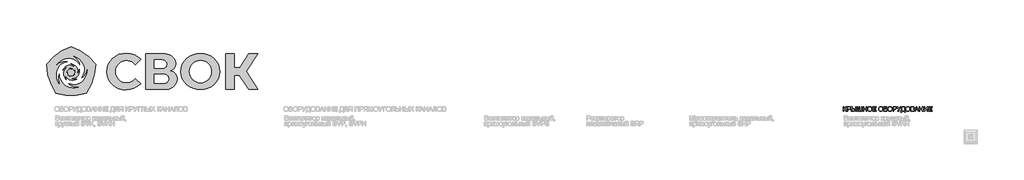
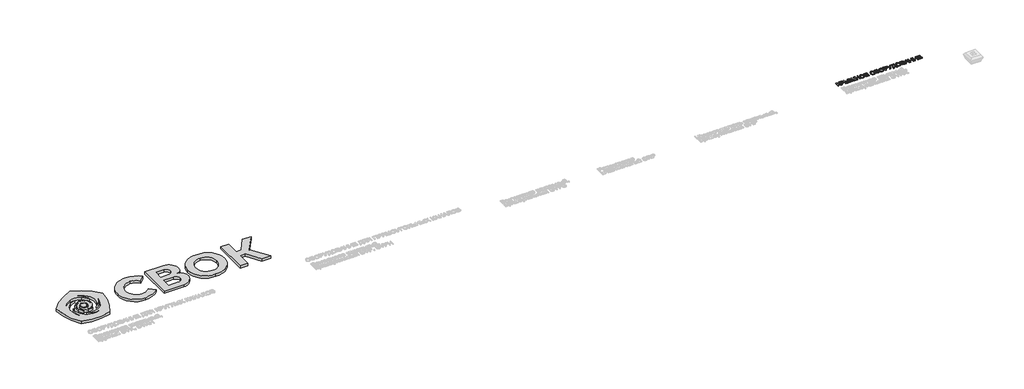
# One storey, part 31 of 31: 2 proxies.
"""IFC4 building model written with IfcOpenShell, lengths in millimetres."""

from ifc_helpers import new_model, si_unit, origin, origin_with_axes, place, context, project, spatial, polyline, outline, extrude, transform, mapped, element, save
from components import generic_models_e413d29a

model = new_model("IFC4")

# Units and contexts
model_context = context("Model", 3, world=origin())
ifc_project = project(units=[si_unit("LENGTHUNIT", "METRE", prefix="MILLI")], contexts=[model_context])

# Site, building, storey
site = spatial("IfcSite", under=ifc_project)
building = spatial("IfcBuilding", under=site)
storey = spatial("IfcBuildingStorey", under=building, Name="Этаж 01", Elevation=0.0)

# Proxies
placement = place(None, origin())
element("IfcBuildingElementProxy", 1, Name="450 мм Arial", ObjectType="450 мм Arial", at=placement, inside=storey, context=model_context, shape_type="SweptSolid", body=[
    extrude(outline(polyline([(77147.7209967, -1162.9519857), (77203.9280146, -1162.9519857), (77203.9280146, -1359.6765481), (77241.9802754, -1355.9577733), (77266.776682, -1344.8014487), (77286.8251324, -1318.550466), (77310.633525, -1269.5477168), (77341.6461862, -1206.6990494), (77356.6036202, -1189.6695305), (77376.7755724, -1175.5766088), (77400.7211891, -1166.1081415), (77426.9996167, -1162.9519857), (77463.8854721, -1163.6106617), (77463.8854721, -1219.8176795), (77451.4804076, -1219.4883415), (77439.0753432, -1219.1590035), (77413.3320899, -1222.534718), (77395.1636105, -1232.6618613), (77379.5200557, -1253.9316068), (77361.7906936, -1290.5155692), (77340.0406635, -1336.0739918), (77321.9956859, -1360.9939001), (77304.1977117, -1374.1125303), (77283.1886921, -1384.2671185), (77304.9593058, -1393.5297496), (77326.578973, -1409.6810338), (77348.0476935, -1432.720971), (77369.3654675, -1462.6495613), (77463.8854721, -1612.6081285), (77398.6765491, -1612.6081285), (77318.7571956, -1485.9227797), (77287.8954809, -1445.2907045), (77262.495288, -1419.7807323), (77236.5187537, -1406.3190417), (77203.9280146, -1401.8318115), (77203.9280146, -1612.6081285), (77147.7209967, -1612.6081285), (77147.7209967, -1162.9519857)])), origin_with_axes(), (0.0, 0.0, 1.0), 50.0),
    extrude(outline(polyline([(77513.0666128, -1612.6081285), (77513.0666128, -1162.9519857), (77679.7116383, -1162.9519857), (77746.8965894, -1167.2333796), (77776.8526245, -1175.2335484), (77801.5118069, -1188.2561216), (77821.3681435, -1206.8911632), (77836.9156414, -1231.728737), (77846.9604502, -1261.0260962), (77850.3087199, -1293.0404938), (77848.0479518, -1320.6431345), (77841.2656474, -1346.0364662), (77829.9618068, -1369.2204888), (77814.1364301, -1390.1952024), (77792.4104142, -1407.581504), (77763.4046564, -1420.0002909), (77727.1191566, -1427.4515631), (77683.5539149, -1429.9353205), (77569.2736306, -1429.9353205), (77569.2736306, -1612.6081285), (77513.0666128, -1612.6081285)]), holes=[polyline([(77569.2736306, -1373.7283026), (77686.8472949, -1373.7283026), (77736.6871115, -1368.568674), (77755.2672634, -1362.1191383), (77769.620911, -1353.0897882), (77780.3312571, -1341.7207662), (77787.9815043, -1328.2522144), (77792.5716526, -1312.684133), (77794.101702, -1295.0165218), (77790.4927065, -1269.7672755), (77779.6657199, -1248.4700851), (77762.965539, -1232.4423027), (77741.7369608, -1223.0012801), (77685.5299429, -1219.1590035), (77569.2736306, -1219.1590035), (77569.2736306, -1373.7283026)])]), origin_with_axes(), (0.0, 0.0, 1.0), 50.0),
    extrude(outline(polyline([(78321.0424944, -1162.9519857), (78377.2495122, -1162.9519857), (78377.2495122, -1612.6081285), (78321.0424944, -1612.6081285), (78321.0424944, -1162.9519857)])), origin_with_axes(), (0.0, 0.0, 1.0), 50.0),
    extrude(outline(polyline([(77927.5933694, -1162.9519857), (77983.8003873, -1162.9519857), (77983.8003873, -1352.6506709), (78091.8232497, -1352.6506709), (78140.3114083, -1355.1069835), (78179.7290496, -1362.4759211), (78210.0761736, -1374.7574838), (78231.3527803, -1391.9516717), (78246.0014599, -1412.2608481), (78256.4648025, -1433.8873764), (78262.742808, -1456.8312567), (78264.8354765, -1481.0924891), (78262.6227369, -1506.5647246), (78255.9845179, -1530.3971314), (78244.9208196, -1552.5897095), (78229.431642, -1573.1424587), (78207.932046, -1590.4086892), (78178.8370925, -1602.741711), (78142.1467815, -1610.1415241), (78097.8611129, -1612.6081285), (77927.5933694, -1612.6081285), (77927.5933694, -1162.9519857)]), holes=[polyline([(77983.8003873, -1556.4011106), (78097.3122163, -1556.4011106), (78147.7969865, -1551.9413253), (78167.0186613, -1546.3665936), (78182.2265294, -1538.5619692), (78193.7773735, -1528.3010323), (78202.0279764, -1515.357363), (78206.9783381, -1499.7309612), (78208.6284587, -1481.4218271), (78204.6352355, -1456.9135912), (78192.6555659, -1436.741639), (78174.3498623, -1422.0037637), (78151.3785372, -1413.7977587), (78117.6076702, -1410.0927063), (78066.9033414, -1408.8576888), (77983.8003873, -1408.8576888), (77983.8003873, -1556.4011106)])]), origin_with_axes(), (0.0, 0.0, 1.0), 50.0),
    extrude(outline(polyline([(78475.6117935, -1162.9519857), (78531.8188113, -1162.9519857), (78531.8188113, -1556.4011106), (78693.4139876, -1556.4011106), (78693.4139876, -1162.9519857), (78749.6210055, -1162.9519857), (78749.6210055, -1556.4011106), (78911.2161818, -1556.4011106), (78911.2161818, -1162.9519857), (78967.4231997, -1162.9519857), (78967.4231997, -1612.6081285), (78475.6117935, -1612.6081285), (78475.6117935, -1162.9519857)])), origin_with_axes(), (0.0, 0.0, 1.0), 50.0),
    extrude(outline(polyline([(79058.7596037, -1612.6081285), (79058.7596037, -1162.9519857), (79114.9666215, -1162.9519857), (79114.9666215, -1345.6247937), (79353.8464474, -1345.6247937), (79353.8464474, -1162.9519857), (79410.0534653, -1162.9519857), (79410.0534653, -1612.6081285), (79353.8464474, -1612.6081285), (79353.8464474, -1401.8318115), (79114.9666215, -1401.8318115), (79114.9666215, -1612.6081285), (79058.7596037, -1612.6081285)])), origin_with_axes(), (0.0, 0.0, 1.0), 50.0),
    extrude(outline(polyline([(79487.3381148, -1393.708141), (79491.0843345, -1340.9660333), (79502.3229936, -1294.2755113), (79521.0540921, -1253.6365749), (79547.2776299, -1219.0492242), (79579.4223905, -1191.432861), (79615.9171571, -1171.7068874), (79656.7619297, -1159.8713032), (79701.9567084, -1155.9261084), (79732.2077755, -1157.7786347), (79760.9356543, -1163.3362133), (79788.140345, -1172.5988444), (79813.8218474, -1185.566528), (79837.2597347, -1201.8481751), (79857.7335801, -1221.052697), (79875.2433835, -1243.1800935), (79889.789145, -1268.2303648), (79901.2199179, -1295.6340305), (79909.3847557, -1324.8216103), (79914.2836584, -1355.7931043), (79915.9166259, -1388.5485124), (79914.1978933, -1421.7361766), (79909.0416953, -1453.1262043), (79900.448032, -1482.7185954), (79888.4169033, -1510.51335), (79873.2330495, -1535.7763187), (79855.1812106, -1557.7733523), (79834.2613867, -1576.5044508), (79810.4735778, -1591.9696141), (79784.7543387, -1604.0727854), (79758.0402245, -1612.7179078), (79730.331235, -1617.9049812), (79701.6273704, -1619.6340057), (79670.8479902, -1617.7231592), (79641.7427449, -1611.9906197), (79614.3116344, -1602.4363873), (79588.5546587, -1589.0604618), (79565.1442162, -1572.3808646), (79544.7527053, -1552.9156168), (79527.3801261, -1530.6647185), (79513.0264784, -1505.6281697), (79501.7878194, -1478.8111373), (79493.7602057, -1451.2187884), (79488.9436375, -1422.851123), (79487.3381148, -1393.708141)]), holes=[polyline([(79543.5451327, -1394.2570376), (79546.3547974, -1431.5202596), (79554.7837917, -1464.5981445), (79568.8321156, -1493.4906923), (79588.499769, -1518.1979032), (79612.4076491, -1537.9856277), (79639.176653, -1552.1197167), (79668.8067808, -1560.6001701), (79701.2980324, -1563.4269879), (79734.3450418, -1560.5727252), (79764.3250912, -1552.0099374), (79791.2381805, -1537.7386242), (79815.0843097, -1517.7587859), (79834.6078778, -1492.5301232), (79848.5532835, -1462.5123372), (79856.9205269, -1427.7054278), (79859.7096081, -1388.1093951), (79854.9342071, -1338.351913), (79840.6080044, -1295.3458597), (79817.1015049, -1260.1753063), (79784.7852142, -1233.9243236), (79745.799829, -1217.5809256), (79702.2860464, -1212.1331263), (79670.9234635, -1214.7575384), (79641.8250794, -1222.6307749), (79614.990894, -1235.7528356), (79590.4209073, -1254.1237207), (79569.9127559, -1278.6285259), (79555.2640763, -1310.1523471), (79546.4748686, -1348.6951844), (79543.5451327, -1394.2570376)])]), origin_with_axes(), (0.0, 0.0, 1.0), 50.0),
    extrude(outline(polyline([(79993.2012755, -1612.6081285), (79993.2012755, -1162.9519857), (80316.3916281, -1162.9519857), (80316.3916281, -1219.1590035), (80049.4082933, -1219.1590035), (80049.4082933, -1352.6506709), (80302.3398737, -1352.6506709), (80302.3398737, -1408.8576888), (80049.4082933, -1408.8576888), (80049.4082933, -1556.4011106), (80323.4175054, -1556.4011106), (80323.4175054, -1612.6081285), (79993.2012755, -1612.6081285)])), origin_with_axes(), (0.0, 0.0, 1.0), 50.0),
    extrude(outline(polyline([(80562.2973312, -1393.708141), (80566.0435509, -1340.9660333), (80577.28221, -1294.2755113), (80596.0133085, -1253.6365749), (80622.2368464, -1219.0492242), (80654.3816069, -1191.432861), (80690.8763735, -1171.7068874), (80731.7211462, -1159.8713032), (80776.9159248, -1155.9261084), (80807.1669919, -1157.7786347), (80835.8948708, -1163.3362133), (80863.0995614, -1172.5988444), (80888.7810638, -1185.566528), (80912.2189512, -1201.8481751), (80932.6927965, -1221.052697), (80950.2025999, -1243.1800935), (80964.7483614, -1268.2303648), (80976.1791343, -1295.6340305), (80984.3439721, -1324.8216103), (80989.2428748, -1355.7931043), (80990.8758424, -1388.5485124), (80989.1571097, -1421.7361766), (80984.0009117, -1453.1262043), (80975.4072484, -1482.7185954), (80963.3761198, -1510.51335), (80948.1922659, -1535.7763187), (80930.1404271, -1557.7733523), (80909.2206032, -1576.5044508), (80885.4327942, -1591.9696141), (80859.7135552, -1604.0727854), (80832.9994409, -1612.7179078), (80805.2904514, -1617.9049812), (80776.5865868, -1619.6340057), (80745.8072067, -1617.7231592), (80716.7019613, -1611.9906197), (80689.2708508, -1602.4363873), (80663.5138751, -1589.0604618), (80640.1034326, -1572.3808646), (80619.7119217, -1552.9156168), (80602.3393425, -1530.6647185), (80587.9856949, -1505.6281697), (80576.7470358, -1478.8111373), (80568.7194221, -1451.2187884), (80563.902854, -1422.851123), (80562.2973312, -1393.708141)]), holes=[polyline([(80618.5043491, -1394.2570376), (80621.3140139, -1431.5202596), (80629.7430082, -1464.5981445), (80643.791332, -1493.4906923), (80663.4589854, -1518.1979032), (80687.3668655, -1537.9856277), (80714.1358694, -1552.1197167), (80743.7659972, -1560.6001701), (80776.2572488, -1563.4269879), (80809.3042583, -1560.5727252), (80839.2843076, -1552.0099374), (80866.1973969, -1537.7386242), (80890.0435262, -1517.7587859), (80909.5670942, -1492.5301232), (80923.5124999, -1462.5123372), (80931.8797434, -1427.7054278), (80934.6688245, -1388.1093951), (80929.8934236, -1338.351913), (80915.5672208, -1295.3458597), (80892.0607214, -1260.1753063), (80859.7444306, -1233.9243236), (80820.7590454, -1217.5809256), (80777.2452628, -1212.1331263), (80745.8826799, -1214.7575384), (80716.7842958, -1222.6307749), (80689.9501104, -1235.7528356), (80665.3801237, -1254.1237207), (80644.8719723, -1278.6285259), (80630.2232927, -1310.1523471), (80621.434085, -1348.6951844), (80618.5043491, -1394.2570376)])]), origin_with_axes(), (0.0, 0.0, 1.0), 50.0),
    extrude(outline(polyline([(81068.1604919, -1162.9519857), (81349.1955812, -1162.9519857), (81349.1955812, -1219.1590035), (81124.3675098, -1219.1590035), (81124.3675098, -1352.6506709), (81229.6458889, -1352.6506709), (81281.9831853, -1355.5049335), (81322.4094242, -1364.0677214), (81353.4495303, -1380.562066), (81377.6284281, -1407.2109988), (81393.1896484, -1441.51704), (81398.3767218, -1480.9827097), (81394.6853918, -1514.1223455), (81383.6114017, -1545.0389498), (81365.2096412, -1572.1132775), (81339.535, -1593.7260834), (81322.3065061, -1601.9869781), (81299.932106, -1607.8876172), (81239.7455874, -1612.6081285), (81068.1604919, -1612.6081285), (81068.1604919, -1162.9519857)]), holes=[polyline([(81124.3675098, -1556.4011106), (81244.7954367, -1556.4011106), (81287.3623726, -1551.7629339), (81304.0968594, -1545.9652129), (81317.7986923, -1537.8484036), (81328.4610099, -1527.4125058), (81336.076951, -1514.6575197), (81340.6465157, -1499.5834452), (81342.1697039, -1482.1902824), (81338.6842101, -1458.0113846), (81328.2277288, -1438.1687703), (81311.5549928, -1423.4583399), (81289.420735, -1414.6759934), (81255.8145371, -1410.3122649), (81204.7259806, -1408.8576888), (81124.3675098, -1408.8576888), (81124.3675098, -1556.4011106)])]), origin_with_axes(), (0.0, 0.0, 1.0), 50.0),
    extrude(outline(polyline([(81454.5837396, -1393.708141), (81458.3299593, -1340.9660333), (81469.5686184, -1294.2755113), (81488.2997169, -1253.6365749), (81514.5232548, -1219.0492242), (81546.6680153, -1191.432861), (81583.1627819, -1171.7068874), (81624.0075546, -1159.8713032), (81669.2023332, -1155.9261084), (81699.4534003, -1157.7786347), (81728.1812792, -1163.3362133), (81755.3859698, -1172.5988444), (81781.0674722, -1185.566528), (81804.5053596, -1201.8481751), (81824.9792049, -1221.052697), (81842.4890083, -1243.1800935), (81857.0347698, -1268.2303648), (81868.4655427, -1295.6340305), (81876.6303805, -1324.8216103), (81881.5292832, -1355.7931043), (81883.1622508, -1388.5485124), (81881.4435181, -1421.7361766), (81876.2873201, -1453.1262043), (81867.6936568, -1482.7185954), (81855.6625282, -1510.51335), (81840.4786743, -1535.7763187), (81822.4268355, -1557.7733523), (81801.5070116, -1576.5044508), (81777.7192026, -1591.9696141), (81751.9999636, -1604.0727854), (81725.2858493, -1612.7179078), (81697.5768598, -1617.9049812), (81668.8729952, -1619.6340057), (81638.0936151, -1617.7231592), (81608.9883697, -1611.9906197), (81581.5572592, -1602.4363873), (81555.8002835, -1589.0604618), (81532.389841, -1572.3808646), (81511.9983301, -1552.9156168), (81494.6257509, -1530.6647185), (81480.2721033, -1505.6281697), (81469.0334442, -1478.8111373), (81461.0058305, -1451.2187884), (81456.1892624, -1422.851123), (81454.5837396, -1393.708141)]), holes=[polyline([(81510.7907575, -1394.2570376), (81513.6004223, -1431.5202596), (81522.0294166, -1464.5981445), (81536.0777404, -1493.4906923), (81555.7453938, -1518.1979032), (81579.6532739, -1537.9856277), (81606.4222779, -1552.1197167), (81636.0524056, -1560.6001701), (81668.5436572, -1563.4269879), (81701.5906667, -1560.5727252), (81731.570716, -1552.0099374), (81758.4838053, -1537.7386242), (81782.3299346, -1517.7587859), (81801.8535026, -1492.5301232), (81815.7989083, -1462.5123372), (81824.1661518, -1427.7054278), (81826.9552329, -1388.1093951), (81822.179832, -1338.351913), (81807.8536292, -1295.3458597), (81784.3471298, -1260.1753063), (81752.030839, -1233.9243236), (81713.0454538, -1217.5809256), (81669.5316712, -1212.1331263), (81638.1690884, -1214.7575384), (81609.0707042, -1222.6307749), (81582.2365188, -1235.7528356), (81557.6665321, -1254.1237207), (81537.1583807, -1278.6285259), (81522.5097012, -1310.1523471), (81513.7204934, -1348.6951844), (81510.7907575, -1394.2570376)])]), origin_with_axes(), (0.0, 0.0, 1.0), 50.0),
    extrude(outline(polyline([(81960.4469003, -1612.6081285), (81960.4469003, -1162.9519857), (82127.0919259, -1162.9519857), (82194.2768769, -1167.2333796), (82224.2329121, -1175.2335484), (82248.8920945, -1188.2561216), (82268.7484311, -1206.8911632), (82284.2959289, -1231.728737), (82294.3407378, -1261.0260962), (82297.6890074, -1293.0404938), (82295.4282393, -1320.6431345), (82288.645935, -1346.0364662), (82277.3420944, -1369.2204888), (82261.5167176, -1390.1952024), (82239.7907017, -1407.581504), (82210.7849439, -1420.0002909), (82174.4994442, -1427.4515631), (82130.9342025, -1429.9353205), (82016.6539182, -1429.9353205), (82016.6539182, -1612.6081285), (81960.4469003, -1612.6081285)]), holes=[polyline([(82016.6539182, -1373.7283026), (82134.2275825, -1373.7283026), (82184.0673991, -1368.568674), (82202.647551, -1362.1191383), (82217.0011986, -1353.0897882), (82227.7115446, -1341.7207662), (82235.3617918, -1328.2522144), (82239.9519401, -1312.684133), (82241.4819896, -1295.0165218), (82237.872994, -1269.7672755), (82227.0460074, -1248.4700851), (82210.3458266, -1232.4423027), (82189.1172483, -1223.0012801), (82132.9102305, -1219.1590035), (82016.6539182, -1219.1590035), (82016.6539182, -1373.7283026)])]), origin_with_axes(), (0.0, 0.0, 1.0), 50.0),
    extrude(outline(polyline([(82343.3572094, -1162.9519857), (82405.6020905, -1162.9519857), (82540.0817719, -1429.2766445), (82661.0585955, -1162.9519857), (82722.7545799, -1162.9519857), (82552.0477191, -1513.2578333), (82526.2770209, -1567.6534921), (82505.6110617, -1599.3248293), (82495.5731141, -1608.210094), (82483.5728609, -1614.5567116), (82453.6854378, -1619.6340057), (82403.0771659, -1612.6081285), (82403.0771659, -1563.4269879), (82447.3182366, -1563.4269879), (82465.0201538, -1560.2982769), (82480.1422568, -1550.912144), (82494.6605734, -1530.4108538), (82510.5511317, -1493.9366709), (82343.3572094, -1162.9519857)])), origin_with_axes(), (0.0, 0.0, 1.0), 50.0),
    extrude(outline(polyline([(82817.6039226, -1162.9519857), (83084.5872573, -1162.9519857), (83084.5872573, -1556.4011106), (83126.7425207, -1556.4011106), (83126.7425207, -1717.996287), (83070.5355029, -1717.996287), (83070.5355029, -1612.6081285), (82782.4745364, -1612.6081285), (82782.4745364, -1717.996287), (82726.2675185, -1717.996287), (82726.2675185, -1556.4011106), (82761.3969047, -1556.4011106), (82774.5704245, -1533.5001128), (82785.987475, -1505.4154722), (82803.5521681, -1433.6952626), (82814.0909839, -1341.2404816), (82817.6039226, -1228.0511294), (82817.6039226, -1162.9519857)]), holes=[polyline([(83028.3802395, -1219.1590035), (82873.8109404, -1219.1590035), (82873.8109404, -1241.7735459), (82870.9566778, -1308.4370451), (82862.3938899, -1395.7939483), (82855.313123, -1442.4707479), (82845.4878728, -1484.7975415), (82832.9181393, -1522.7743291), (82817.6039226, -1556.4011106), (83028.3802395, -1556.4011106), (83028.3802395, -1219.1590035)])]), origin_with_axes(), (0.0, 0.0, 1.0), 50.0),
    extrude(outline(polyline([(83175.9236614, -1393.708141), (83179.6698811, -1340.9660333), (83190.9085401, -1294.2755113), (83209.6396386, -1253.6365749), (83235.8631765, -1219.0492242), (83268.0079371, -1191.432861), (83304.5027037, -1171.7068874), (83345.3474763, -1159.8713032), (83390.5422549, -1155.9261084), (83420.793322, -1157.7786347), (83449.5212009, -1163.3362133), (83476.7258915, -1172.5988444), (83502.407394, -1185.566528), (83525.8452813, -1201.8481751), (83546.3191267, -1221.052697), (83563.8289301, -1243.1800935), (83578.3746915, -1268.2303648), (83589.8054644, -1295.6340305), (83597.9703022, -1324.8216103), (83602.8692049, -1355.7931043), (83604.5021725, -1388.5485124), (83602.7834398, -1421.7361766), (83597.6272418, -1453.1262043), (83589.0335785, -1482.7185954), (83577.0024499, -1510.51335), (83561.8185961, -1535.7763187), (83543.7667572, -1557.7733523), (83522.8469333, -1576.5044508), (83499.0591243, -1591.9696141), (83473.3398853, -1604.0727854), (83446.625771, -1612.7179078), (83418.9167816, -1617.9049812), (83390.2129169, -1619.6340057), (83359.4335368, -1617.7231592), (83330.3282915, -1611.9906197), (83302.8971809, -1602.4363873), (83277.1402052, -1589.0604618), (83253.7297627, -1572.3808646), (83233.3382519, -1552.9156168), (83215.9656726, -1530.6647185), (83201.612025, -1505.6281697), (83190.3733659, -1478.8111373), (83182.3457523, -1451.2187884), (83177.5291841, -1422.851123), (83175.9236614, -1393.708141)]), holes=[polyline([(83232.1306792, -1394.2570376), (83234.940344, -1431.5202596), (83243.3693383, -1464.5981445), (83257.4176622, -1493.4906923), (83277.0853156, -1518.1979032), (83300.9931957, -1537.9856277), (83327.7621996, -1552.1197167), (83357.3923273, -1560.6001701), (83389.8835789, -1563.4269879), (83422.9305884, -1560.5727252), (83452.9106378, -1552.0099374), (83479.8237271, -1537.7386242), (83503.6698563, -1517.7587859), (83523.1934243, -1492.5301232), (83537.13883, -1462.5123372), (83545.5060735, -1427.7054278), (83548.2951546, -1388.1093951), (83543.5197537, -1338.351913), (83529.1935509, -1295.3458597), (83505.6870515, -1260.1753063), (83473.3707607, -1233.9243236), (83434.3853755, -1217.5809256), (83390.8715929, -1212.1331263), (83359.5090101, -1214.7575384), (83330.410626, -1222.6307749), (83303.5764406, -1235.7528356), (83279.0064539, -1254.1237207), (83258.4983025, -1278.6285259), (83243.8496229, -1310.1523471), (83235.0604151, -1348.6951844), (83232.1306792, -1394.2570376)])]), origin_with_axes(), (0.0, 0.0, 1.0), 50.0),
    extrude(outline(polyline([(83681.786822, -1612.6081285), (83681.786822, -1162.9519857), (83853.3719175, -1162.9519857), (83900.5633078, -1166.259088), (83937.407996, -1176.1803951), (83965.6487291, -1192.9629105), (83987.0282539, -1216.8536376), (84000.4899445, -1244.9571465), (84004.9771747, -1274.3780074), (84001.2035101, -1301.4523351), (83989.8825166, -1326.9074176), (83970.9318594, -1349.1788996), (83944.2692042, -1366.7024254), (83976.1189328, -1383.3339941), (83999.6528771, -1408.6381301), (84014.1849161, -1440.9406985), (84019.0289291, -1478.5675644), (84015.7218268, -1509.9232861), (84005.8005197, -1539.0010866), (83990.9940323, -1563.728881), (83973.0313891, -1582.0345846), (83951.0343555, -1595.2904389), (83924.1246969, -1604.8686856), (83891.4241784, -1610.6732678), (83852.0545656, -1612.6081285), (83681.786822, -1612.6081285)]), holes=[polyline([(83737.9938399, -1345.6247937), (83840.6375151, -1345.6247937), (83876.5353565, -1344.417221), (83900.5770302, -1340.7945031), (83921.558605, -1332.4649963), (83936.6395407, -1319.9913197), (83945.7375028, -1303.5655872), (83948.7701568, -1283.3799126), (83945.943339, -1263.7843019), (83937.4628857, -1246.7136158), (83923.7130244, -1233.3891494), (83905.0779828, -1225.0321978), (83876.4804669, -1220.6273021), (83832.8431825, -1219.1590035), (83737.9938399, -1219.1590035), (83737.9938399, -1345.6247937)]), polyline([(83737.9938399, -1556.4011106), (83853.2621382, -1556.4011106), (83894.9782843, -1554.205524), (83914.3406139, -1549.3340662), (83930.2723394, -1541.9651285), (83943.2263006, -1531.4125902), (83953.6553371, -1516.9903305), (83960.5302677, -1499.343303), (83962.8219113, -1479.1164611), (83960.1323177, -1455.6236841), (83952.0635368, -1435.4242871), (83937.9706151, -1419.6297857), (83917.208599, -1409.3516958), (83887.8014605, -1403.7117826), (83847.7731716, -1401.8318115), (83737.9938399, -1401.8318115), (83737.9938399, -1556.4011106)])]), origin_with_axes(), (0.0, 0.0, 1.0), 50.0),
    extrude(outline(polyline([(84043.9488374, -1612.6081285), (84223.4380448, -1162.9519857), (84271.3018335, -1162.9519857), (84450.7910409, -1612.6081285), (84391.4004224, -1612.6081285), (84339.9139158, -1472.0905839), (84154.7161832, -1472.0905839), (84103.3394559, -1612.6081285), (84043.9488374, -1612.6081285)]), holes=[polyline([(84175.3546975, -1415.883566), (84319.3851808, -1415.883566), (84278.8766074, -1305.3357789), (84247.3699392, -1219.1590035), (84219.3762096, -1295.6751977), (84175.3546975, -1415.883566)])]), origin_with_axes(), (0.0, 0.0, 1.0), 50.0),
    extrude(outline(polyline([(84510.8403353, -1612.6081285), (84510.8403353, -1162.9519857), (84567.0473532, -1162.9519857), (84567.0473532, -1345.6247937), (84805.9271791, -1345.6247937), (84805.9271791, -1162.9519857), (84862.1341969, -1162.9519857), (84862.1341969, -1612.6081285), (84805.9271791, -1612.6081285), (84805.9271791, -1401.8318115), (84567.0473532, -1401.8318115), (84567.0473532, -1612.6081285), (84510.8403353, -1612.6081285)])), origin_with_axes(), (0.0, 0.0, 1.0), 50.0),
    extrude(outline(polyline([(84960.4964782, -1162.9519857), (85016.703496, -1162.9519857), (85016.703496, -1519.0761378), (85252.0703833, -1162.9519857), (85311.7903397, -1162.9519857), (85311.7903397, -1612.6081285), (85255.5833219, -1612.6081285), (85255.5833219, -1257.4719903), (85020.7653313, -1612.6081285), (84960.4964782, -1612.6081285), (84960.4964782, -1162.9519857)])), origin_with_axes(), (0.0, 0.0, 1.0), 50.0),
    extrude(outline(polyline([(85410.152621, -1612.6081285), (85410.152621, -1162.9519857), (85733.3429736, -1162.9519857), (85733.3429736, -1219.1590035), (85466.3596388, -1219.1590035), (85466.3596388, -1352.6506709), (85719.2912192, -1352.6506709), (85719.2912192, -1408.8576888), (85466.3596388, -1408.8576888), (85466.3596388, -1556.4011106), (85740.3688509, -1556.4011106), (85740.3688509, -1612.6081285), (85410.152621, -1612.6081285)])), origin_with_axes(), (0.0, 0.0, 1.0), 50.0),
])
generic_models_shape = generic_models_e413d29a(model_context)
element("IfcBuildingElementProxy", 2, Name="Лого : Лого", ObjectType="Лого : Лого", at=placement, inside=storey, context=model_context, shape_type="MappedRepresentation", body=[
    mapped(generic_models_shape, transform((0.0, 0.0, 0.0), x_axis=(1.0, 0.0, 0.0), y_axis=(0.0, 1.0, 0.0), z_axis=(0.0, 0.0, 1.0))),
])

save(model, "model.ifc")
